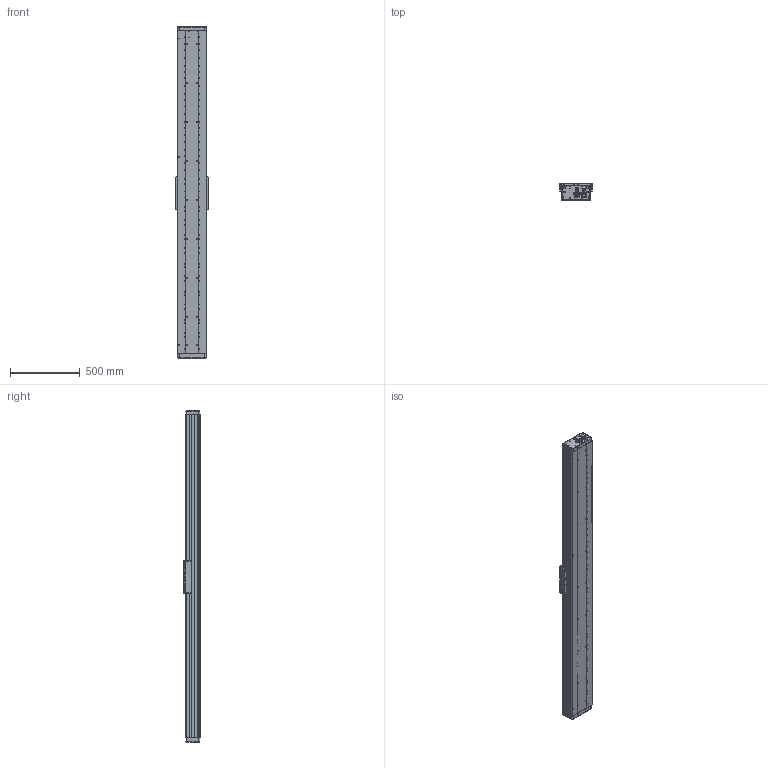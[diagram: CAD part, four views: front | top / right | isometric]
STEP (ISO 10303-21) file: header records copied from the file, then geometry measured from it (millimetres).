
FILE_DESCRIPTION (( 'STEP AP214' ), '1' );
FILE_NAME ('Assy_Linear_Axis_2m_travel_0deg_PF400_ShellEXT_091914.STEP', '2014-09-19T21:54:22', ( '' ), ( '' ), 'SwSTEP 2.0', 'SolidWorks 2014', '' );
FILE_SCHEMA (( 'AUTOMOTIVE_DESIGN' ));
Length unit declared in the file: millimetre
Products named in the file (20): IKO_MES15_Rail_1200; Assy, End Cap, Tall, Linear Axis, PF400, ShellEXT; M4-40_91292A132; Assy, Connector End Cap, Tall, Linear Axis, PF400, ShellEXT; M4-25_91292A122; Extrusion, Linear Axis, 2321mm, PF400, ShellEXT; Dsub_mtng_standoff; M6-16_91292A135; M3_6_FHCS_91294A130; Assy_Linear_Axis_2m_travel_0deg_PF400_ShellEXT_091914; Base, Cutout Cover, Linear Axis, PF400; Tape Seal^Assy, Linear Axis, 2m travel, PF400, ShellEXT; Cover, Linear Axis, Hollow, 2321mm, PF400, ShellEXT; Misumi-UST6-60_UST-60-Shoulder-Normal Type-SCM435-Bright Chromate-6-Urethane(Black)-; Belt Mount, Linear Axis, PF400, ShellEXT; Assy, Base, Linear Axis, PF400, ShellEXT; Assy, Carriage, Linear Axis, Tall, PF400, ShellEXT; keystone_612; IKO_MESC15_slider; Carriage, Tall, Linear Axis, PF400, ShellEXT
Assembly tree (43 placements, depth 3):
  Assy_Linear_Axis_2m_travel_0deg_PF400_ShellEXT_091914
    Extrusion, Linear Axis, 2321mm, PF400, ShellEXT
    Assy, Connector End Cap, Tall, Linear Axis, PF400, ShellEXT
    Assy, End Cap, Tall, Linear Axis, PF400, ShellEXT
    IKO_MES15_Rail_1200  x2
    Assy, Carriage, Linear Axis, Tall, PF400, ShellEXT
      Carriage, Tall, Linear Axis, PF400, ShellEXT
      IKO_MESC15_slider  x4
      keystone_612  x4
    Assy, Base, Linear Axis, PF400, ShellEXT
    Belt Mount, Linear Axis, PF400, ShellEXT
    Misumi-UST6-60_UST-60-Shoulder-Normal Type-SCM435-Bright Chromate-6-Urethane(Black)-
    Cover, Linear Axis, Hollow, 2321mm, PF400, ShellEXT
    Tape Seal^Assy, Linear Axis, 2m travel, PF400, ShellEXT  x2
    Base, Cutout Cover, Linear Axis, PF400
    M3_6_FHCS_91294A130  x4
    M6-16_91292A135  x4
    Dsub_mtng_standoff  x4
    M4-25_91292A122  x8
    M4-40_91292A132
Bounding box: 234 x 119.2 x 2384 mm (x, y, z)
Volume: 651761.2 mm3; surface area: 5068302.9 mm2
Topology: 53 solids, 152 shells, 5025 faces, 15378 edges, 10506 vertices
Faces by surface type: plane 2282, cylinder 1993, cone 421, bspline 275, torus 54
Entity records: 172497 total; most frequent: CARTESIAN_POINT 35155, DIRECTION 21237, ORIENTED_EDGE 19649, EDGE_CURVE 11589, VERTEX_POINT 8132, VECTOR 7145, LINE 7145, AXIS2_PLACEMENT_3D 7046
